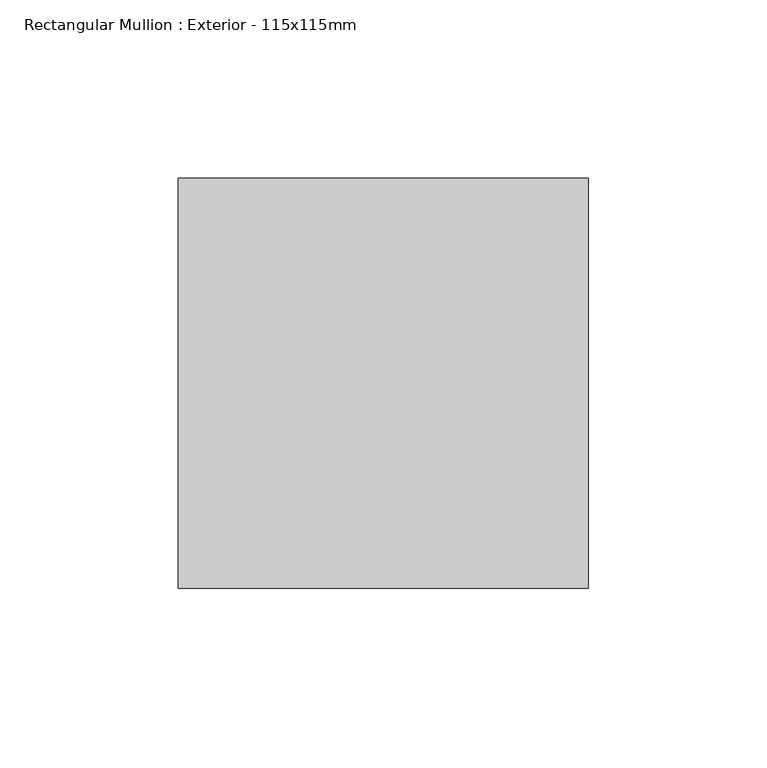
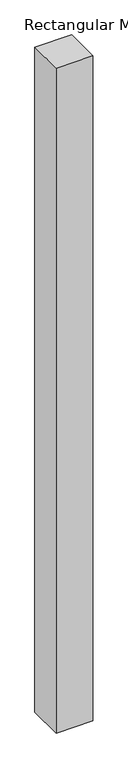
"""IFC4 building model written with IfcOpenShell, lengths in millimetres: member geometry, Rectangular Mullion : Exterior - 115x115mm."""

import ifcopenshell
import ifcopenshell.guid

model = None  # the IFC model being written
_history = None  # IfcOwnerHistory: only IFC2X3 demands one
_inside = {}  # id of a spatial element -> (the spatial element, [elements in it])
_under = {}  # id of a project, library or spatial element -> (it, [spatial elements below it])
_declared = {}  # id of a project -> (the project, [libraries it declares])
_typed = {}  # id of a type object -> (the type object, [elements of that type])
_made_of = {}  # id of a material, layer set ... -> (it, [elements and type objects made of it])


def new_model(schema):
    """Start an empty IFC model of exactly this schema.

    Asked for "IFC4X3", IfcOpenShell would pick the latest addendum, in which some entities
    have other attributes; the version numbers below select the first issue.
    IFC2X3 requires an IfcOwnerHistory on every rooted entity: one is made here for all.
    """
    global model, _history
    if schema == "IFC4X3":
        model = ifcopenshell.file(schema_version=(4, 3, 0, 0))
    else:
        model = ifcopenshell.file(schema=schema)
    _inside.clear()
    _under.clear()
    _declared.clear()
    _typed.clear()
    _made_of.clear()
    _history = None
    if model.schema == "IFC2X3":
        org = make("IfcOrganization", Name="unknown")
        user = make(
            "IfcPersonAndOrganization",
            ThePerson=make("IfcPerson", FamilyName="unknown"),
            TheOrganization=org,
        )
        app = make(
            "IfcApplication",
            ApplicationDeveloper=org,
            Version="unknown",
            ApplicationFullName="unknown",
            ApplicationIdentifier="unknown",
        )
        _history = make(
            "IfcOwnerHistory",
            OwningUser=user,
            OwningApplication=app,
            ChangeAction="ADDED",
            CreationDate=0,
        )
    return model


def make(cls, **values):
    """One entity of the class cls with the attributes given. An attribute that is None is left unset."""
    return model.create_entity(
        cls, **{name: value for name, value in values.items() if value is not None}
    )


def rooted(cls, **values):
    """An entity with a GlobalId (a new one), such as an element, a storey or a relation."""
    return make(cls, GlobalId=ifcopenshell.guid.new(), OwnerHistory=_history, **values)


def si_unit(unit_type, name, prefix=None):
    """IfcSIUnit, for example si_unit("LENGTHUNIT", "METRE", prefix="MILLI")."""
    return make("IfcSIUnit", UnitType=unit_type, Prefix=prefix, Name=name)


def assignment(units):
    """IfcUnitAssignment: the units of a project."""
    return None if units is None else make("IfcUnitAssignment", Units=units)


def point(xyz):
    """IfcCartesianPoint."""
    return None if xyz is None else make("IfcCartesianPoint", Coordinates=xyz)


def direction(xyz):
    """IfcDirection."""
    return None if xyz is None else make("IfcDirection", DirectionRatios=xyz)


def frame(location, z_axis=None, x_axis=None):
    """IfcAxis2Placement3D, a coordinate frame: its origin and axes. An axis left out is left unset."""
    return make(
        "IfcAxis2Placement3D",
        Location=point(location),
        Axis=direction(z_axis),
        RefDirection=direction(x_axis),
    )


def origin():
    """The frame at (0, 0, 0) with its axes left unset."""
    return frame((0.0, 0.0, 0.0))


def place(relative_to, where):
    """IfcLocalPlacement: puts the frame where relative to a parent placement (None: the world)."""
    return make(
        "IfcLocalPlacement", PlacementRelTo=relative_to, RelativePlacement=where
    )


def context(
    kind, dimensions, precision=None, world=None, true_north=None, identifier=None
):
    """IfcGeometricRepresentationContext, for example the 3D "Model" context."""
    return make(
        "IfcGeometricRepresentationContext",
        ContextIdentifier=identifier,
        ContextType=kind,
        CoordinateSpaceDimension=dimensions,
        Precision=precision,
        WorldCoordinateSystem=world,
        TrueNorth=true_north,
    )


def project(units=None, contexts=None):
    """IfcProject with its units and contexts."""
    return rooted(
        "IfcProject",
        Name="project",
        RepresentationContexts=contexts,
        UnitsInContext=assignment(units),
    )


def spatial(cls, under=None, at=None, **own):
    """A site, building, storey or space (cls), placed at a placement, below another one or the project."""
    s = rooted(cls, ObjectPlacement=at, **own)
    if under is not None:
        _under.setdefault(under.id(), (under, []))[1].append(s)
    return s


def polyline(points):
    """IfcPolyline through the points."""
    return make("IfcPolyline", Points=[point(p) for p in points])


def outline(outer, holes=None, kind="AREA"):
    """IfcArbitraryClosedProfileDef: a profile drawn as a closed curve; with holes, ...WithVoids."""
    if holes is None:
        return make("IfcArbitraryClosedProfileDef", ProfileType=kind, OuterCurve=outer)
    return make(
        "IfcArbitraryProfileDefWithVoids",
        ProfileType=kind,
        OuterCurve=outer,
        InnerCurves=holes,
    )


def extrude(swept, where, along, depth):
    """IfcExtrudedAreaSolid: the profile swept, set in the frame where, extruded along a direction by depth."""
    return make(
        "IfcExtrudedAreaSolid",
        SweptArea=swept,
        Position=where,
        ExtrudedDirection=direction(along),
        Depth=depth,
    )


def shape(context_of_items, identifier, shape_type, items):
    """IfcShapeRepresentation: the items that make up one representation, for example the "Body"."""
    return make(
        "IfcShapeRepresentation",
        ContextOfItems=context_of_items,
        RepresentationIdentifier=identifier,
        RepresentationType=shape_type,
        Items=items,
    )


def source(mapping_origin, context_of_items, identifier, shape_type, items):
    """IfcRepresentationMap: a shape defined once, which mapped items show again and again."""
    return make(
        "IfcRepresentationMap",
        MappingOrigin=mapping_origin,
        MappedRepresentation=shape(context_of_items, identifier, shape_type, items),
    )


def transform(
    local_origin,
    x_axis=None,
    y_axis=None,
    z_axis=None,
    scale=None,
    scale2=None,
    scale3=None,
    uniform=True,
):
    """IfcCartesianTransformationOperator3D, or its non-uniform kind. x_axis, y_axis, z_axis: its Axis1, 2, 3."""
    if uniform:
        return make(
            "IfcCartesianTransformationOperator3D",
            Axis1=direction(x_axis),
            Axis2=direction(y_axis),
            LocalOrigin=point(local_origin),
            Scale=scale,
            Axis3=direction(z_axis),
        )
    return make(
        "IfcCartesianTransformationOperator3DnonUniform",
        Axis1=direction(x_axis),
        Axis2=direction(y_axis),
        LocalOrigin=point(local_origin),
        Scale=scale,
        Axis3=direction(z_axis),
        Scale2=scale2,
        Scale3=scale3,
    )


def mapped(mapping_source, mapping_target):
    """IfcMappedItem: shows the shape of a source again, moved by a transform."""
    return make(
        "IfcMappedItem", MappingSource=mapping_source, MappingTarget=mapping_target
    )


def made_of(thing, what):
    """Note that an element or type object is made of a material, layer set ...; save() writes the relation."""
    if what is not None:
        _made_of.setdefault(what.id(), (what, []))[1].append(thing)
    return thing


def element(
    cls,
    number,
    at=None,
    inside=None,
    cuts=None,
    type_object=None,
    material=None,
    context=None,
    identifier="Body",
    shape_type=None,
    held_by="IfcProductDefinitionShape",
    body=None,
    shapes=None,
    **own,
):
    """One element of the class cls, such as IfcWall. Its Tag is "e" and its number.

    at: its placement. inside: the storey or other place that contains it. cuts: it is an
    opening in that element (IfcRelVoidsElement). A single representation is given by context,
    identifier, shape_type and body (its items); several are given by shapes. held_by: the class
    of the entity that holds the representations. save() writes the other relations.
    """
    e = rooted(cls, Tag="e%d" % number, ObjectPlacement=at, **own)
    if body is not None:
        shapes = [shape(context, identifier, shape_type, body)]
    if shapes is not None:
        e.Representation = make(held_by, Representations=shapes)
    if inside is not None:
        _inside.setdefault(inside.id(), (inside, []))[1].append(e)
    if cuts is not None:
        rooted(
            "IfcRelVoidsElement", RelatingBuildingElement=cuts, RelatedOpeningElement=e
        )
    if type_object is not None:
        _typed.setdefault(type_object.id(), (type_object, []))[1].append(e)
    return made_of(e, material)


def aggregate(whole, parts):
    """IfcRelAggregates: a whole, such as a stair, and the parts it consists of."""
    return rooted("IfcRelAggregates", RelatingObject=whole, RelatedObjects=parts)


def save(model, path):
    """Write the relations noted so far, then the file.

    IfcRelAggregates (storeys below a building ...), IfcRelContainedInSpatialStructure (elements
    in a storey), IfcRelDefinesByType, IfcRelAssociatesMaterial and IfcRelDeclares: one each for
    every whole, place, type object, material and project.
    """
    for whole, parts in _under.values():
        aggregate(whole, parts)
    for where, things in _inside.values():
        rooted(
            "IfcRelContainedInSpatialStructure",
            RelatedElements=things,
            RelatingStructure=where,
        )
    for kind, things in _typed.values():
        rooted("IfcRelDefinesByType", RelatedObjects=things, RelatingType=kind)
    for what, things in _made_of.values():
        rooted("IfcRelAssociatesMaterial", RelatedObjects=things, RelatingMaterial=what)
    for by, libraries in _declared.values():
        rooted("IfcRelDeclares", RelatingContext=by, RelatedDefinitions=libraries)
    model.write(path)


def rectangular_mullion_exterior_115x115mm_a364345c(model_context):
    return source(origin(), model_context, "Body", "SweptSolid", [
        extrude(outline(polyline([(57.5, 115.0), (57.5, 0.0), (-57.5, 0.0), (-57.5, 115.0), (57.5, 115.0)])), frame((0.0, 0.0, -2200.0), z_axis=(0.0, 0.0, 1.0), x_axis=(1.0, 0.0, 0.0)), (0.0, 0.0, 1.0), 2200.0),
    ])


if __name__ == "__main__":
    model = new_model("IFC4")
    model_context = context("Model", 3, world=origin())
    ifc_project = project(units=[si_unit("LENGTHUNIT", "METRE", prefix="MILLI")], contexts=[model_context])
    site = spatial("IfcSite", under=ifc_project)
    building = spatial("IfcBuilding", under=site)
    placement = place(None, origin())
    rectangular_mullion_exterior_115x115mm_shape = rectangular_mullion_exterior_115x115mm_a364345c(model_context)
    element("IfcMember", 1, ObjectType="Rectangular Mullion : Exterior - 115x115mm", at=placement, inside=building, context=model_context, shape_type="MappedRepresentation", body=[
        mapped(rectangular_mullion_exterior_115x115mm_shape, transform((0.0, 0.0, 0.0), x_axis=(1.0, 0.0, 0.0), y_axis=(0.0, 1.0, 0.0), z_axis=(0.0, 0.0, 1.0))),
    ])
    save(model, "model.ifc")
